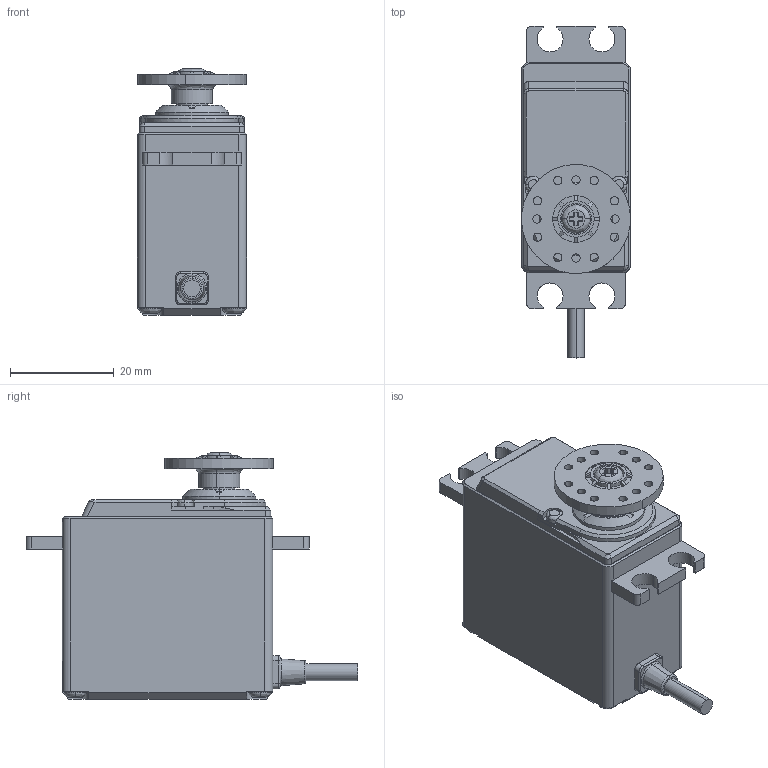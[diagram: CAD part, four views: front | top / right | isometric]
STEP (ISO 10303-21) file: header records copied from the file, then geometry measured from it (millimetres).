
FILE_DESCRIPTION (( 'STEP AP203' ), '1' );
FILE_NAME ('BLA1HH21(3D).STEP', '2022-12-06T04:31:07', ( '' ), ( '' ), 'SwSTEP 2.0', 'SolidWorks 2022', '' );
FILE_SCHEMA (( 'CONFIG_CONTROL_DESIGN' ));
Length unit declared in the file: millimetre
Products named in the file (4): BLA1HH21(3D); BLA1HH21; HORN; SCREW M3x8
Assembly tree (3 placements, depth 2):
  BLA1HH21(3D)
    BLA1HH21
    HORN
    SCREW M3x8
Bounding box: 21 x 63.9 x 47.4 mm (x, y, z)
Volume: 33669.3 mm3; surface area: 8399.4 mm2
Topology: 3 solids, 3 shells, 351 faces, 910 edges, 584 vertices
Faces by surface type: plane 169, cylinder 125, cone 31, bspline 18, torus 8
Entity records: 12883 total; most frequent: CARTESIAN_POINT 4030, ORIENTED_EDGE 1820, DIRECTION 1680, EDGE_CURVE 910, AXIS2_PLACEMENT_3D 606, VERTEX_POINT 584, LINE 468, VECTOR 468
